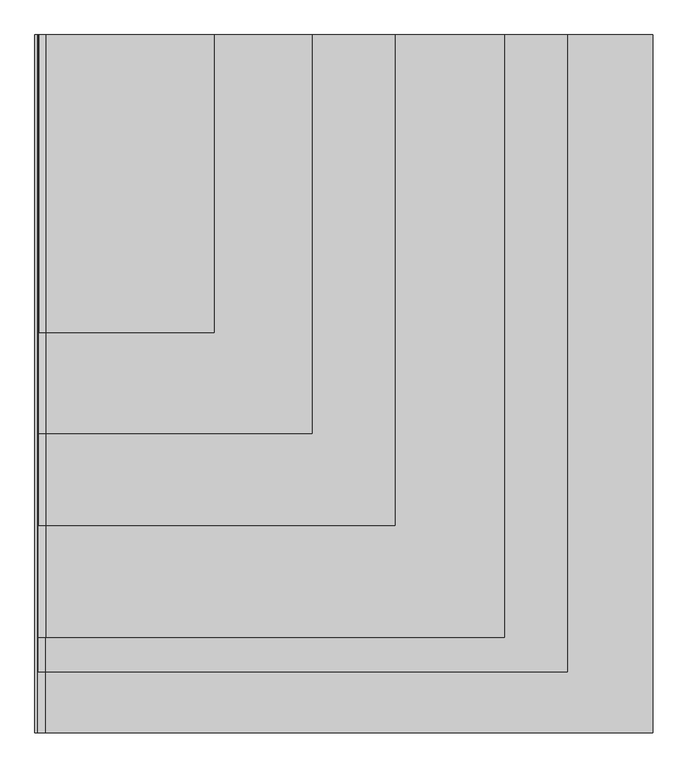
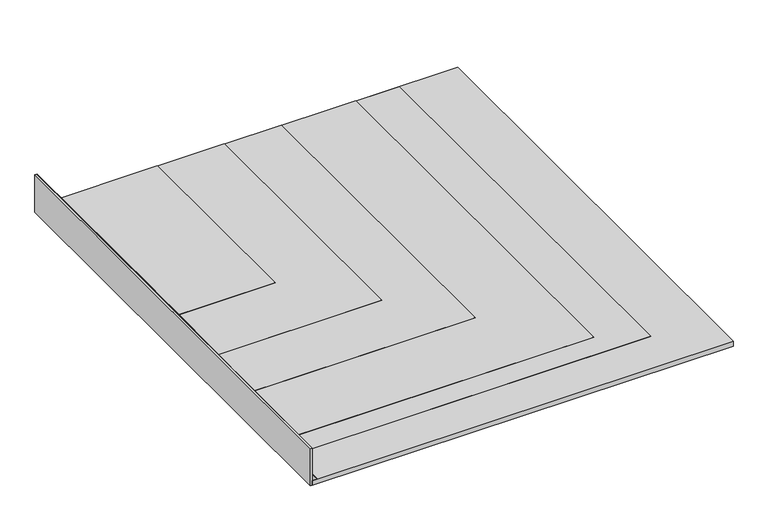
"""IFC4 building model written with IfcOpenShell, lengths in millimetres: proxy geometry, IMPER:IMPER:433934 : IMPER:IMPER:433934."""

from ifc_helpers import new_model, si_unit, frame, origin, place, context, project, spatial, polyline, outline, extrude, source, transform, mapped, element, save


def generic_models_83c96165(model_context):
    return source(origin(), model_context, "Body", "SweptSolid", [
        extrude(outline(polyline([(-351.9704105, 145.8700195), (-341.9704105, 145.8700195), (-341.9704105, -2634.1299805), (-351.9704105, -2634.1299805), (-351.9704105, 145.8700195)])), frame((0.0, 0.0, -2.523798), z_axis=(0.0, 0.0, 1.0), x_axis=(1.0, 0.0, 0.0)), (0.0, 0.0, 1.0), 230.0),
        extrude(outline(polyline([(61.1330563, -337.9704105), (31.476202, -308.3135563), (31.476202, 361.7312822), (32.476202, 361.7312822), (32.476202, -307.8993427), (61.5472698, -336.9704105), (227.476202, -336.9704105), (227.476202, -337.9704105), (61.1330563, -337.9704105)])), frame((0.0, -1040.9682755, 0.0), z_axis=(0.0, 1.0, 0.0), x_axis=(0.0, 0.0, 1.0)), (0.0, 0.0, 1.0), 1186.838295),
        extrude(outline(polyline([(60.7188427, -338.9704105), (30.476202, -308.7277698), (30.476202, 752.0794969), (31.476202, 752.0794969), (31.476202, -308.3135563), (61.1330563, -337.9704105), (227.476202, -337.9704105), (227.476202, -338.9704105), (60.7188427, -338.9704105)])), frame((0.0, -1441.727671, 0.0), z_axis=(0.0, 1.0, 0.0), x_axis=(0.0, 0.0, 1.0)), (0.0, 0.0, 1.0), 1587.5976905),
        extrude(outline(polyline([(60.3046291, -339.9704105), (29.476202, -309.1419834), (29.476202, 1083.1217224), (30.476202, 1083.1217224), (30.476202, -308.7277698), (60.7188427, -338.9704105), (227.476202, -338.9704105), (227.476202, -339.9704105), (60.3046291, -339.9704105)])), frame((0.0, -1808.3727269, 0.0), z_axis=(0.0, 1.0, 0.0), x_axis=(0.0, 0.0, 1.0)), (0.0, 0.0, 1.0), 1954.2427464),
        extrude(outline(polyline([(29.476202, 1518.0295895), (29.476202, -309.1419834), (60.3046291, -339.9704105), (227.476202, -339.9704105), (227.476202, -340.9704105), (59.8904156, -340.9704105), (28.476202, -309.5561969), (28.476202, 1518.0295895), (29.476202, 1518.0295895)])), frame((0.0, -2254.3719221, 0.0), z_axis=(0.0, 1.0, 0.0), x_axis=(0.0, 0.0, 1.0)), (0.0, 0.0, 1.0), 2400.2419416),
        extrude(outline(polyline([(28.476202, -340.9704105), (28.476202, -310.9704105), (58.476202, -340.9704105), (28.476202, -340.9704105)])), frame((0.0, -2634.1299805, 0.0), z_axis=(0.0, 1.0, 0.0), x_axis=(0.0, 0.0, 1.0)), (0.0, 0.0, 1.0), 2780.0),
        extrude(outline(polyline([(27.476202, 1769.6731136), (28.476202, 1769.6731136), (28.476202, -309.5561969), (59.8904156, -340.9704105), (227.476202, -340.9704105), (227.476202, -341.9704105), (27.476202, -341.9704105), (27.476202, 1769.6731136)]), holes=[polyline([(58.476202, -340.9704105), (28.476202, -310.9704105), (28.476202, -340.9704105), (58.476202, -340.9704105)])]), frame((0.0, -2391.1469338, 0.0), z_axis=(0.0, 1.0, 0.0), x_axis=(0.0, 0.0, 1.0)), (0.0, 0.0, 1.0), 2537.0169532),
        extrude(outline(polyline([(-341.9704105, 145.8700195), (2109.6154896, 145.8700195), (2109.6154896, -2634.1299805), (-341.9704105, -2634.1299805), (-341.9704105, 145.8700195)])), frame((0.0, 0.0, -2.523798), z_axis=(0.0, 0.0, 1.0), x_axis=(1.0, 0.0, 0.0)), (0.0, 0.0, 1.0), 30.0),
    ])


if __name__ == "__main__":
    model = new_model("IFC4")
    model_context = context("Model", 3, world=origin())
    ifc_project = project(units=[si_unit("LENGTHUNIT", "METRE", prefix="MILLI")], contexts=[model_context])
    site = spatial("IfcSite", under=ifc_project)
    building = spatial("IfcBuilding", under=site)
    placement = place(None, origin())
    generic_models_shape = generic_models_83c96165(model_context)
    element("IfcBuildingElementProxy", 1, Name="IMPER:IMPER:433934 : IMPER:IMPER:433934", ObjectType="IMPER:IMPER:433934 : IMPER:IMPER:433934", at=placement, inside=building, context=model_context, shape_type="MappedRepresentation", body=[
        mapped(generic_models_shape, transform((0.0, 0.0, 0.0), x_axis=(1.0, 0.0, 0.0), y_axis=(0.0, 1.0, 0.0), z_axis=(0.0, 0.0, 1.0))),
    ])
    save(model, "model.ifc")
